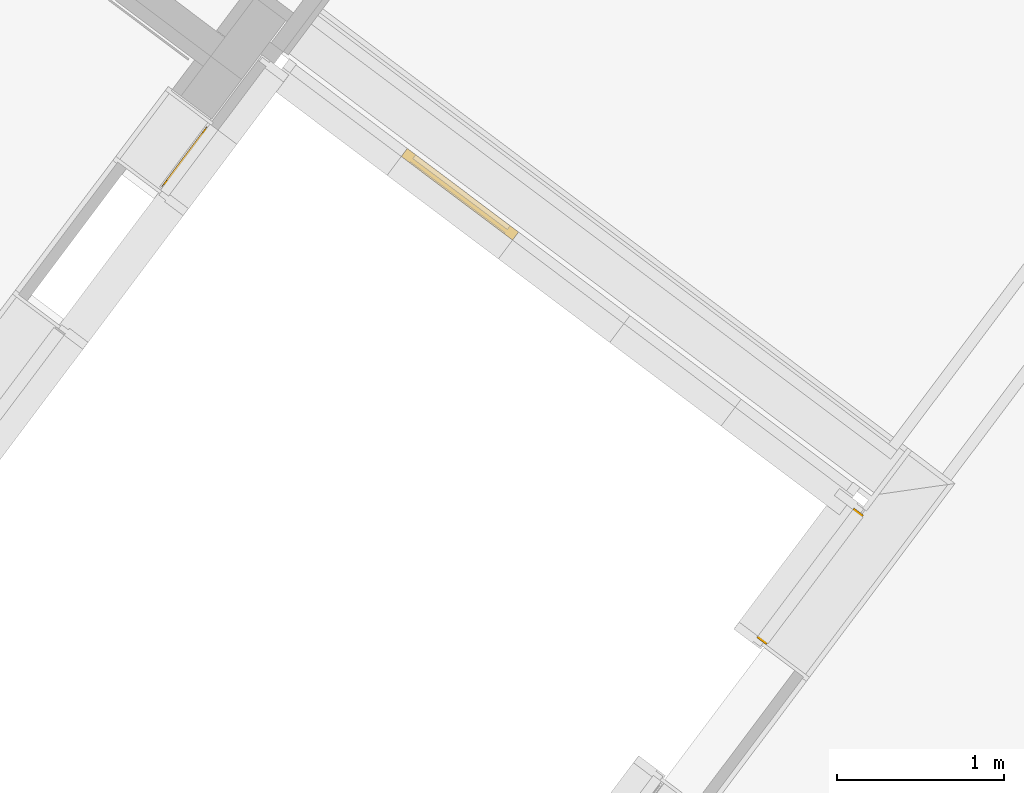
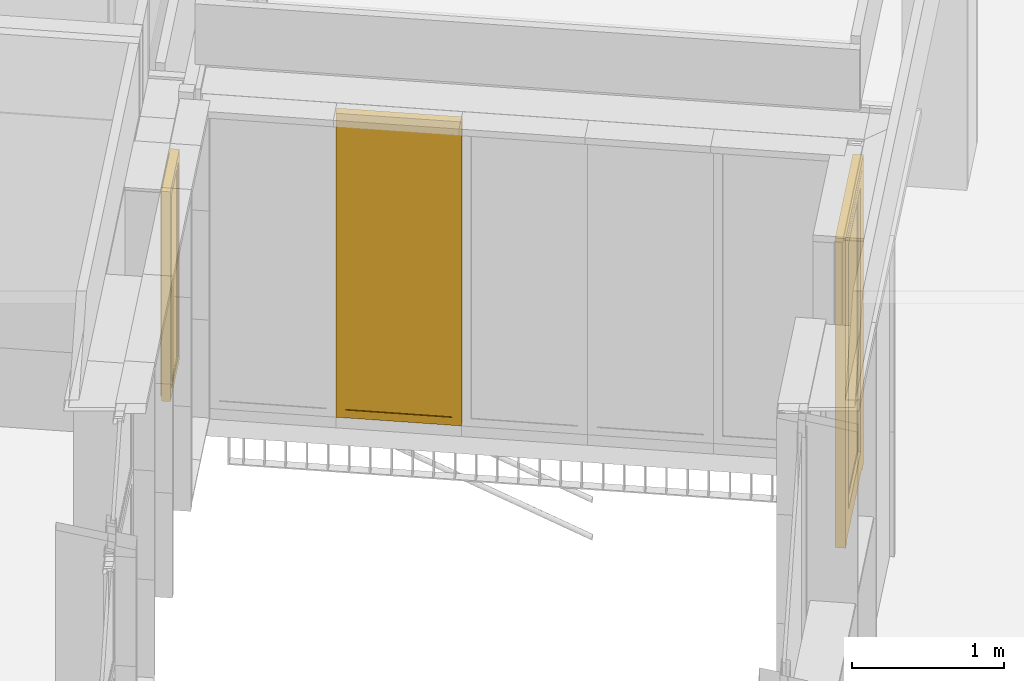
# One storey, part 197 of 243: 2 windows, 1 door, 3 elements without a shape of their own.
"""IFC2X3 building model written with IfcOpenShell, lengths in metres."""

from ifc_helpers import new_model, entity, si_unit, converted_unit, derived_unit, direction, frame, origin, place, context, subcontext, project, spatial, faceted_brep, source, transform, mapped, material, material_list, type_object, type_shapes, element, aggregate, save


model = new_model("IFC2X3")

# Units and contexts
model_context = context("Model", 3, precision=1e-05, world=origin(), true_north=direction((6.123031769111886e-17, 1.0)))
body_context = subcontext(model_context, "Body", "Model", "MODEL_VIEW")
ifc_project = project(units=[si_unit("LENGTHUNIT", "METRE"), si_unit("AREAUNIT", "SQUARE_METRE"), si_unit("VOLUMEUNIT", "CUBIC_METRE"), converted_unit("PLANEANGLEUNIT", "DEGREE", entity("IfcRatioMeasure", 0.017453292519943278), si_unit("PLANEANGLEUNIT", "RADIAN"), dimensions=[0, 0, 0, 0, 0, 0, 0]), si_unit("MASSUNIT", "GRAM", prefix="KILO"), derived_unit("MASSDENSITYUNIT", [(si_unit("MASSUNIT", "GRAM", prefix="KILO"), 1), (si_unit("LENGTHUNIT", "METRE"), -3)]), derived_unit("IONCONCENTRATIONUNIT", [(si_unit("MASSUNIT", "GRAM", prefix="KILO"), 1), (si_unit("LENGTHUNIT", "METRE"), -3)]), derived_unit("MOMENTOFINERTIAUNIT", [(si_unit("LENGTHUNIT", "METRE"), 4)]), si_unit("TIMEUNIT", "SECOND"), si_unit("FREQUENCYUNIT", "HERTZ"), si_unit("THERMODYNAMICTEMPERATUREUNIT", "DEGREE_CELSIUS"), derived_unit("THERMALTRANSMITTANCEUNIT", [(si_unit("MASSUNIT", "GRAM", prefix="KILO"), 1), (si_unit("THERMODYNAMICTEMPERATUREUNIT", "KELVIN"), -1), (si_unit("TIMEUNIT", "SECOND"), -3)]), derived_unit("THERMALCONDUCTANCEUNIT", [(si_unit("MASSUNIT", "GRAM", prefix="KILO"), 1), (si_unit("THERMODYNAMICTEMPERATUREUNIT", "KELVIN"), -1), (si_unit("TIMEUNIT", "SECOND"), -3), (si_unit("LENGTHUNIT", "METRE"), 1)]), derived_unit("VOLUMETRICFLOWRATEUNIT", [(si_unit("LENGTHUNIT", "METRE"), 3), (si_unit("TIMEUNIT", "SECOND"), -1)]), derived_unit("MASSFLOWRATEUNIT", [(si_unit("MASSUNIT", "GRAM", prefix="KILO"), 1), (si_unit("TIMEUNIT", "SECOND"), -1)]), derived_unit("ROTATIONALFREQUENCYUNIT", [(si_unit("TIMEUNIT", "SECOND"), -1)]), si_unit("ELECTRICCURRENTUNIT", "AMPERE"), si_unit("ELECTRICVOLTAGEUNIT", "VOLT"), si_unit("POWERUNIT", "WATT"), si_unit("FORCEUNIT", "NEWTON", prefix="KILO"), si_unit("ILLUMINANCEUNIT", "LUX"), si_unit("LUMINOUSFLUXUNIT", "LUMEN"), si_unit("LUMINOUSINTENSITYUNIT", "CANDELA"), derived_unit("USERDEFINED", [(si_unit("MASSUNIT", "GRAM", prefix="KILO"), -1), (si_unit("LENGTHUNIT", "METRE"), -2), (si_unit("TIMEUNIT", "SECOND"), 3), (si_unit("LUMINOUSFLUXUNIT", "LUMEN"), 1)]), derived_unit("USERDEFINED", [(si_unit("MASSUNIT", "GRAM", prefix="KILO"), 1), (si_unit("TIMEUNIT", "SECOND"), -3), (si_unit("LENGTHUNIT", "METRE"), 3), (si_unit("ELECTRICCURRENTUNIT", "AMPERE"), -2)]), derived_unit("SOUNDPOWERUNIT", [(si_unit("MASSUNIT", "GRAM", prefix="KILO"), 1), (si_unit("TIMEUNIT", "SECOND"), -3), (si_unit("LENGTHUNIT", "METRE"), 2)]), derived_unit("SOUNDPRESSUREUNIT", [(si_unit("MASSUNIT", "GRAM", prefix="KILO"), 1), (si_unit("LENGTHUNIT", "METRE"), -1), (si_unit("TIMEUNIT", "SECOND"), -2)]), derived_unit("LINEARVELOCITYUNIT", [(si_unit("LENGTHUNIT", "METRE"), 1), (si_unit("TIMEUNIT", "SECOND"), -1)]), si_unit("PRESSUREUNIT", "PASCAL"), derived_unit("USERDEFINED", [(si_unit("MASSUNIT", "GRAM", prefix="KILO"), 1), (si_unit("LENGTHUNIT", "METRE"), -2), (si_unit("TIMEUNIT", "SECOND"), -2)]), derived_unit("LINEARFORCEUNIT", [(si_unit("MASSUNIT", "GRAM", prefix="KILO"), 1), (si_unit("TIMEUNIT", "SECOND"), -2)]), derived_unit("PLANARFORCEUNIT", [(si_unit("MASSUNIT", "GRAM", prefix="KILO"), 1), (si_unit("LENGTHUNIT", "METRE"), -1), (si_unit("TIMEUNIT", "SECOND"), -2)]), derived_unit("SPECIFICHEATCAPACITYUNIT", [(si_unit("THERMODYNAMICTEMPERATUREUNIT", "KELVIN"), -1), (si_unit("LENGTHUNIT", "METRE"), 2), (si_unit("TIMEUNIT", "SECOND"), -2)]), derived_unit("HEATINGVALUEUNIT", [(si_unit("LENGTHUNIT", "METRE"), 2), (si_unit("TIMEUNIT", "SECOND"), -2)]), derived_unit("VAPORPERMEABILITYUNIT", [(si_unit("LENGTHUNIT", "METRE"), -1), (si_unit("TIMEUNIT", "SECOND"), 1)]), derived_unit("DYNAMICVISCOSITYUNIT", [(si_unit("MASSUNIT", "GRAM", prefix="KILO"), 1), (si_unit("TIMEUNIT", "SECOND"), -1), (si_unit("LENGTHUNIT", "METRE"), -1)]), derived_unit("THERMALEXPANSIONCOEFFICIENTUNIT", [(si_unit("THERMODYNAMICTEMPERATUREUNIT", "KELVIN"), -1)]), derived_unit("MODULUSOFELASTICITYUNIT", [(si_unit("MASSUNIT", "GRAM", prefix="KILO"), 1), (si_unit("LENGTHUNIT", "METRE"), -1), (si_unit("TIMEUNIT", "SECOND"), -2)]), derived_unit("ISOTHERMALMOISTURECAPACITYUNIT", [(si_unit("LENGTHUNIT", "METRE"), 3), (si_unit("MASSUNIT", "GRAM", prefix="KILO"), -1)]), derived_unit("MOISTUREDIFFUSIVITYUNIT", [(si_unit("TIMEUNIT", "SECOND"), -1), (si_unit("LENGTHUNIT", "METRE"), 2)])], contexts=[model_context])

# Site, building, storey
site_placement = place(None, frame((0.0, 0.0, 235.0), z_axis=(0.0, 0.0, 1.0), x_axis=(-0.7996477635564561, 0.6004693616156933, 0.0)))
site = spatial("IfcSite", under=ifc_project, at=site_placement, Name="Default", CompositionType="ELEMENT")
building_placement = place(site_placement, origin())
building = spatial("IfcBuilding", under=site, at=building_placement, CompositionType="ELEMENT")
storey_placement = place(building_placement, origin())
storey = spatial("IfcBuildingStorey", under=building, at=storey_placement, Name="P0- Escola", CompositionType="ELEMENT", Elevation=0.0)

# Curtain wall, window
curtain_wall_type_1 = type_object("IfcCurtainWallType", Name="Muro cortina:MC- EXT- MC2", PredefinedType="NOTDEFINED")
curtain_wall_1_placement = place(storey_placement, origin())
curtain_wall_1 = element("IfcCurtainWall", 1, at=curtain_wall_1_placement, inside=storey, type_object=curtain_wall_type_1, Name="Muro cortina:MC- EXT- MC2", ObjectType="Muro cortina:MC- EXT- MC2")
ifc_material_1 = material(Name="_Vidre")
ifc_material_2 = material(Name="_Alumini- T1- Perfil")
ifc_material_list_1 = material_list([ifc_material_1, ifc_material_2])
window_style_1 = type_object("IfcWindowStyle", Name="MC- Alu- Conjunt finestra basculant- 68x68 cm:MC- Alu- Conjunt finestra basculant- 68x68 cm", ConstructionType="NOTDEFINED", OperationType="NOTDEFINED", ParameterTakesPrecedence=False, Sizeable=False, material=ifc_material_list_1)
shared_shape_1 = source(origin(), body_context, "Body", "Brep", [
    faceted_brep([(0.194410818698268, -0.03559830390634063, 0.051999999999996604), (-0.19441081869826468, -0.03559830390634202, 0.051999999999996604), (-0.1944108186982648, -0.011598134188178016, 0.051999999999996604), (0.19441081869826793, -0.011598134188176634, 0.051999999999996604), (0.194410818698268, -0.03559830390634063, 1.631552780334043), (0.19441081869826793, -0.011598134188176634, 1.631552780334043), (-0.19441081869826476, -0.011598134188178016, 1.631552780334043), (-0.19441081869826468, -0.03559830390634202, 1.631552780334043)], [[[0, 1, 2, 3]], [[4, 0, 3, 5]], [[5, 3, 2, 6]], [[6, 2, 1, 7]], [[7, 1, 0, 4]], [[4, 5, 6, 7]]]),
    faceted_brep([(-0.1787099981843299, -0.009998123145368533, 1.6158519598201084), (-0.17870999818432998, -0.009998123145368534, 0.06789804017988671), (-0.17870999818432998, -0.007998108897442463, 0.06789804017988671), (-0.17870999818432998, -0.007998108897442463, 1.6158519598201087), (-0.2076080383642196, -0.007998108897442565, 1.6447499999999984), (0.2076080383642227, -0.00799810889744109, 1.6447499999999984), (0.2076080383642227, -0.00799810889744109, 0.03899999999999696), (-0.2076080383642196, -0.007998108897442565, 0.03899999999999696), (0.17870999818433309, -0.007998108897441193, 1.6158519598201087), (0.17870999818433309, -0.007998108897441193, 0.06789804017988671), (0.17870999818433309, -0.009998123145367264, 0.06789804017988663), (0.17870999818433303, -0.009998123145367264, 1.6158519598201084), (0.1944108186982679, -0.009998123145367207, 1.6315527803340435), (-0.1944108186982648, -0.00999812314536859, 1.6315527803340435), (-0.1944108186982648, -0.00999812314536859, 0.05219721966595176), (0.1944108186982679, -0.009998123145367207, 0.05219721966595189), (-0.1944108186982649, -0.04079986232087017, 1.6315527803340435), (-0.19441081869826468, -0.04079986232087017, 0.05219721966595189), (0.19441081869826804, -0.04079986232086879, 0.05219721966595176), (0.1944108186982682, -0.04079986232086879, 1.6315527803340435), (0.1787099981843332, -0.040799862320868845, 1.6158519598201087), (-0.17870999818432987, -0.040799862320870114, 1.6158519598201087), (-0.17870999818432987, -0.040799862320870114, 0.06789804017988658), (0.1787099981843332, -0.040799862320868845, 0.06789804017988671), (-0.17870999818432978, -0.0680000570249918, 1.6158519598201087), (-0.17870999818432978, -0.0680000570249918, 0.06789804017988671), (0.17870999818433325, -0.06800005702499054, 0.06789804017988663), (0.17870999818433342, -0.06800005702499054, 1.6158519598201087), (0.225112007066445, -0.06800005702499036, 1.6622539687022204), (-0.22511200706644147, -0.06800005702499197, 1.6622539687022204), (-0.22511200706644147, -0.06800005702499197, 0.021496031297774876), (0.225112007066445, -0.06800005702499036, 0.021496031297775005), (-0.22511200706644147, -0.06450003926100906, 1.6622539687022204), (-0.22511200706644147, -0.06450003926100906, 0.021496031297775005), (0.225112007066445, -0.06450003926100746, 0.021496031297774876), (0.225112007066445, -0.06450003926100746, 1.6622539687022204), (0.2076080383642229, -0.06450003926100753, 1.6447499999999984), (-0.2076080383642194, -0.064500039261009, 1.6447499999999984), (-0.2076080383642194, -0.064500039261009, 0.03899999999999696), (0.2076080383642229, -0.06450003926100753, 0.03899999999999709)], [[[0, 1, 2, 3]], [[4, 5, 6, 7], [8, 3, 2, 9]], [[1, 10, 9, 2]], [[0, 11, 10, 1], [12, 13, 14, 15]], [[16, 17, 14, 13]], [[17, 18, 15, 14]], [[16, 19, 18, 17], [20, 21, 22, 23]], [[24, 25, 22, 21]], [[25, 26, 23, 22]], [[24, 27, 26, 25], [28, 29, 30, 31]], [[32, 33, 30, 29]], [[33, 34, 31, 30]], [[32, 35, 34, 33], [36, 37, 38, 39]], [[4, 7, 38, 37]], [[7, 6, 39, 38]], [[10, 11, 8, 9]], [[18, 19, 12, 15]], [[26, 27, 20, 23]], [[34, 35, 28, 31]], [[6, 5, 36, 39]], [[11, 0, 3, 8]], [[19, 16, 13, 12]], [[27, 24, 21, 20]], [[35, 32, 29, 28]], [[5, 4, 37, 36]]], outer=[[True], [True, False], [True], [False, True], [True], [True], [True, False], [True], [True], [False, True], [True], [True], [True, False], [True], [True], [True], [True], [True], [True], [True], [True], [True], [True], [True], [True]]),
    faceted_brep([(0.18369229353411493, 0.0, 1.62094318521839), (0.18369229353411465, 0.0, 0.06280681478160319), (0.18369229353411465, -0.0040000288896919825, 0.06280681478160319), (0.18369229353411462, -0.0040000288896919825, 1.6209431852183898), (-0.1836922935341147, -0.0040000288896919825, 1.6209431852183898), (-0.18369229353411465, -0.0040000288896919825, 0.06280681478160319), (0.21909891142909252, -0.0040000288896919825, 1.6563498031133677), (-0.21909891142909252, -0.0040000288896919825, 1.6563498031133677), (-0.21909891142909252, -0.0040000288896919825, 0.027400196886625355), (0.21909891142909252, -0.0040000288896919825, 0.027400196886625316), (-0.18369229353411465, 0.0, 0.06280681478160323), (-0.18369229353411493, 0.0, 1.62094318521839), (-0.24649910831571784, 0.0, 1.683749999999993), (0.24649910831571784, 0.0, 1.683749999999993), (0.24649910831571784, 0.0, 0.0), (-0.24649910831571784, 0.0, 0.0), (0.24649910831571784, -0.05999999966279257, 1.683749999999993), (0.24649910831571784, -0.05999999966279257, 0.0), (-0.24649910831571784, -0.05999999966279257, 0.0), (-0.24649910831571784, -0.05999999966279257, 1.683749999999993), (-0.2190989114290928, -0.05999999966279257, 1.6563498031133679), (0.2190989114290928, -0.05999999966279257, 1.6563498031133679), (0.2190989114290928, -0.05999999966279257, 0.02740019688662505), (-0.2190989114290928, -0.05999999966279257, 0.027400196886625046)], [[[0, 1, 2, 3]], [[4, 3, 2, 5], [6, 7, 8, 9]], [[1, 10, 5, 2]], [[0, 11, 10, 1], [12, 13, 14, 15]], [[16, 17, 14, 13]], [[17, 18, 15, 14]], [[16, 19, 18, 17], [20, 21, 22, 23]], [[6, 9, 22, 21]], [[9, 8, 23, 22]], [[10, 11, 4, 5]], [[18, 19, 12, 15]], [[8, 7, 20, 23]], [[11, 0, 3, 4]], [[19, 16, 13, 12]], [[7, 6, 21, 20]]], outer=[[True], [False, True], [True], [False, True], [True], [True], [True, False], [True], [True], [True], [True], [True], [True], [True], [True]]),
])
type_shapes(window_style_1, [shared_shape_1])
window_1_placement = place(curtain_wall_1_placement, frame((53.745147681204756, -35.67669086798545, 0.8200000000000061), z_axis=(0.0, 0.0, 1.0), x_axis=(0.0, 1.0, 0.0)))
window_1 = element("IfcWindow", 2, at=window_1_placement, type_object=window_style_1, material=ifc_material_list_1, Name="MC- Alu- Conjunt finestra basculant- 68x68 cm:MC- Alu- Conjunt finestra basculant- 68x68 cm", ObjectType="MC- Alu- Conjunt finestra basculant- 68x68 cm:MC- Alu- Conjunt finestra basculant- 68x68 cm", OverallHeight=1.683749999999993, OverallWidth=0.49299821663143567, context=body_context, shape_type="MappedRepresentation", body=[
    mapped(shared_shape_1, transform((0.0, 0.0, 0.0), scale=1.0)),
])
aggregate(curtain_wall_1, [window_1])

# Curtain wall, door
curtain_wall_type_2 = type_object("IfcCurtainWallType", Name="Muro cortina:MC- EXT- MC5", PredefinedType="NOTDEFINED")
curtain_wall_2_placement = place(storey_placement, origin())
curtain_wall_2 = element("IfcCurtainWall", 3, at=curtain_wall_2_placement, inside=storey, type_object=curtain_wall_type_2, Name="Muro cortina:MC- EXT- MC5", ObjectType="Muro cortina:MC- EXT- MC5")
ifc_material_list_2 = material_list([ifc_material_2, ifc_material_1])
door_style = type_object("IfcDoorStyle", Name="MC- Alu- Conjunt porta- 70x60 cm- +15cm:MC- Alu- Conjunt porta- 70x60 cm- +15cm", ConstructionType="NOTDEFINED", OperationType="SINGLE_SWING_RIGHT", ParameterTakesPrecedence=False, Sizeable=False, material=ifc_material_list_2)
shared_shape_2 = source(origin(), body_context, "Body", "Brep", [
    faceted_brep([(-0.4116740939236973, -0.06999999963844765, 0.024000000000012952), (-0.4116740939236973, -0.004300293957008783, 0.024000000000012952), (0.4116740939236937, -0.004300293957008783, 0.024000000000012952), (0.4116740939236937, -0.06999999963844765, 0.024000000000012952), (-0.4116740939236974, -0.004300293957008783, 2.410449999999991), (-0.4116740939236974, -0.06999999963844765, 2.410449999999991), (0.4116740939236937, -0.004300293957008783, 2.410449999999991), (0.4356740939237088, -0.004300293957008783, 0.0), (0.4356740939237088, -0.004300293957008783, 2.434450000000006), (-0.4356740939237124, -0.004300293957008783, 2.434450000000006), (-0.4356740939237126, -0.004300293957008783, 0.0), (0.4116740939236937, -0.06999999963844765, 2.410449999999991), (-0.33507409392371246, -0.06999999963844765, 2.333850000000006), (0.3350740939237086, -0.06999999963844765, 2.333850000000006), (0.3350740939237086, -0.06999999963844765, 0.20400000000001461), (-0.3350740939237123, -0.06999999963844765, 0.20400000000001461), (0.4356740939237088, -2.945720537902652e-07, 2.434450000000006), (0.4356740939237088, -2.945720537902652e-07, 0.0), (-0.4356740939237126, -2.945720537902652e-07, 0.0), (-0.43567409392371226, -2.945720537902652e-07, 2.434450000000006), (0.3350740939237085, -2.945720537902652e-07, 2.333850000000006), (-0.33507409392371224, -2.945720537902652e-07, 2.333850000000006), (-0.3350740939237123, -2.945720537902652e-07, 0.20400000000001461), (0.33507409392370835, -2.945720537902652e-07, 0.20400000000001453), (0.33507409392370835, -0.005500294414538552, 2.333850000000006), (0.3350740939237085, -0.005500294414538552, 0.20400000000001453), (-0.3350740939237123, -0.005500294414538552, 0.20400000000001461), (-0.33507409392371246, -0.005500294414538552, 2.333850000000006), (0.36007409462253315, -0.005500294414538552, 2.3588500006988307), (-0.360074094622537, -0.005500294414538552, 2.3588500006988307), (-0.360074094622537, -0.005500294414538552, 0.17899999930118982), (0.36007409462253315, -0.005500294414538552, 0.17899999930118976), (0.36007409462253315, -0.051000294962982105, 2.3588500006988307), (0.36007409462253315, -0.051000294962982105, 0.17899999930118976), (-0.360074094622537, -0.051000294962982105, 0.17899999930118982), (-0.36007409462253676, -0.051000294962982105, 2.3588500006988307), (0.3350740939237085, -0.051000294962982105, 2.333850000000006), (-0.33507409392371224, -0.051000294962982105, 2.333850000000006), (-0.3350740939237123, -0.051000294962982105, 0.20400000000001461), (0.33507409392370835, -0.051000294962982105, 0.20400000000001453)], [[[0, 1, 2, 3]], [[4, 1, 0, 5]], [[2, 1, 4, 6], [7, 8, 9, 10]], [[2, 6, 11, 3]], [[12, 13, 14, 15], [11, 5, 0, 3]], [[16, 8, 7, 17]], [[10, 18, 17, 7]], [[18, 19, 16, 17], [20, 21, 22, 23]], [[24, 20, 23, 25]], [[23, 22, 26, 25]], [[27, 24, 25, 26], [28, 29, 30, 31]], [[32, 28, 31, 33]], [[33, 31, 30, 34]], [[35, 32, 33, 34], [36, 37, 38, 39]], [[13, 36, 39, 14]], [[39, 38, 15, 14]], [[9, 19, 18, 10]], [[21, 27, 26, 22]], [[29, 35, 34, 30]], [[37, 12, 15, 38]], [[19, 9, 8, 16]], [[27, 21, 20, 24]], [[35, 29, 28, 32]], [[12, 37, 36, 13]], [[4, 5, 11, 6]]], outer=[[True], [True], [False, True], [True], [False, True], [True], [True], [True, False], [True], [True], [False, True], [True], [True], [True, False], [True], [True], [True], [True], [True], [True], [True], [True], [True], [True], [True]]),
    faceted_brep([(0.36007409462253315, -0.00910019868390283, 0.17899999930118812), (0.36007409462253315, -0.041100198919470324, 0.17899999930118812), (-0.360074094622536, -0.041100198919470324, 0.17899999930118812), (-0.360074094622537, -0.00910019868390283, 0.17899999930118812), (0.36007409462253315, -0.00910019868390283, 2.358850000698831), (0.36007409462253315, -0.041100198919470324, 2.358850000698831), (-0.360074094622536, -0.041100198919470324, 2.358850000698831), (-0.360074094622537, -0.00910019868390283, 2.358850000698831)], [[[0, 1, 2, 3]], [[4, 5, 1, 0]], [[5, 6, 2, 1]], [[6, 7, 3, 2]], [[7, 4, 0, 3]], [[4, 7, 6, 5]]]),
    faceted_brep([(0.4849740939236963, 0.0, 0.0), (0.4849740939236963, -0.06999999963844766, 0.0), (0.4176740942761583, -0.06999999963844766, 0.0), (0.4176740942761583, -0.061199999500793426, 0.0), (0.4331740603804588, -0.061199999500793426, 0.0), (0.4331740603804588, -0.010300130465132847, 0.0), (0.44367409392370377, -0.010300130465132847, 0.0), (0.44367409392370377, 0.0, 0.0), (0.48497409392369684, 0.0, 2.4837499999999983), (0.48497409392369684, -0.06999999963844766, 2.4837499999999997), (-0.48497409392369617, -0.06999999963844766, 2.4837499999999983), (-0.48497409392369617, -0.06999999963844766, 0.0), (-0.41767409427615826, -0.06999999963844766, 0.0), (-0.41767409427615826, -0.06999999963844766, 2.4164500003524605), (0.4176740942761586, -0.06999999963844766, 2.416450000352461), (0.4176740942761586, -0.061199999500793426, 2.416450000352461), (-0.4176740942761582, -0.061199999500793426, 2.4164500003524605), (-0.4176740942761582, -0.061199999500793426, 0.0), (-0.43317406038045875, -0.061199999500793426, 0.0), (-0.43317406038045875, -0.061199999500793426, 2.4319499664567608), (0.4331740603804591, -0.061199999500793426, 2.431949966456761), (0.4331740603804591, -0.010300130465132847, 2.431949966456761), (-0.43317406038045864, -0.010300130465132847, 2.4319499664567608), (-0.43317406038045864, -0.010300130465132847, 0.0), (-0.443674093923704, -0.010300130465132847, 0.0), (-0.443674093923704, -0.010300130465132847, 2.4424500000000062), (0.4436740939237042, -0.010300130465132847, 2.4424500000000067), (0.4436740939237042, 0.0, 2.4424500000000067), (-0.44367409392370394, 0.0, 2.4424500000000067), (-0.44367409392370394, 0.0, 0.0), (-0.4849740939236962, 0.0, 0.0), (-0.4849740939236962, 0.0, 2.4837499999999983)], [[[0, 1, 2, 3, 4, 5, 6, 7]], [[1, 0, 8, 9]], [[2, 1, 9, 10, 11, 12, 13, 14]], [[3, 2, 14, 15]], [[4, 3, 15, 16, 17, 18, 19, 20]], [[5, 4, 20, 21]], [[6, 5, 21, 22, 23, 24, 25, 26]], [[7, 6, 26, 27]], [[0, 7, 27, 28, 29, 30, 31, 8]], [[30, 29, 24, 23, 18, 17, 12, 11]], [[28, 25, 24, 29]], [[22, 19, 18, 23]], [[16, 13, 12, 17]], [[10, 31, 30, 11]], [[9, 8, 31, 10]], [[15, 14, 13, 16]], [[21, 20, 19, 22]], [[27, 26, 25, 28]]]),
])
type_shapes(door_style, [shared_shape_2])
door_placement = place(curtain_wall_2_placement, frame((49.345147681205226, -35.915165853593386, 0.020000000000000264), z_axis=(0.0, 0.0, 1.0), x_axis=(0.0, -1.0, 0.0)))
door = element("IfcDoor", 4, at=door_placement, type_object=door_style, material=ifc_material_list_2, Name="MC- Alu- Conjunt porta- 70x60 cm- +15cm:MC- Alu- Conjunt porta- 70x60 cm- +15cm", ObjectType="MC- Alu- Conjunt porta- 70x60 cm- +15cm:MC- Alu- Conjunt porta- 70x60 cm- +15cm", OverallHeight=2.483750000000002, OverallWidth=0.9699481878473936, context=body_context, shape_type="MappedRepresentation", body=[
    mapped(shared_shape_2, transform((0.0, 0.0, 0.0), scale=1.0)),
])
aggregate(curtain_wall_2, [door])

# Curtain wall, window
curtain_wall_type_3 = type_object("IfcCurtainWallType", PredefinedType="NOTDEFINED")
curtain_wall_3_placement = place(storey_placement, origin())
curtain_wall_3 = element("IfcCurtainWall", 5, at=curtain_wall_3_placement, inside=storey, type_object=curtain_wall_type_3)
window_style_2 = type_object("IfcWindowStyle", Name="MC- Alu- Conjunt vidre fix- 62x60 cm:MC- Alu- Conjunt vidre fix- 62x60 cm", ConstructionType="NOTDEFINED", OperationType="NOTDEFINED", ParameterTakesPrecedence=False, Sizeable=False, material=ifc_material_list_1)
shared_shape_3 = source(origin(), body_context, "Body", "Brep", [
    faceted_brep([(-0.367593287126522, -0.007600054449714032, 0.048806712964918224), (0.36759328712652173, -0.007600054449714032, 0.048806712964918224), (0.36759328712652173, -0.03160022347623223, 0.048806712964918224), (-0.367593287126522, -0.03160022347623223, 0.048806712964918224), (-0.367593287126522, -0.007600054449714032, 2.389749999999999), (0.36759328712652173, -0.007600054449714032, 2.389749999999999), (0.36759328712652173, -0.03160022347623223, 2.389749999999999), (-0.367593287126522, -0.03160022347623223, 2.389749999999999)], [[[0, 1, 2, 3]], [[4, 5, 1, 0]], [[5, 6, 2, 1]], [[6, 7, 3, 2]], [[7, 4, 0, 3]], [[4, 7, 6, 5]]]),
    faceted_brep([(-0.4164000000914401, -0.05999999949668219, 2.438749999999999), (-0.4164000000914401, 0.0, 2.438749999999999), (-0.4164000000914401, 0.0, 0.0), (-0.41640000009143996, -0.05999999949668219, 0.0), (-0.3535931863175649, 0.0, 2.3759431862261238), (-0.3535931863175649, 0.0, 0.06280681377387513), (0.353593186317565, 0.0, 0.06280681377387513), (0.35359318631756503, 0.0, 2.3759431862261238), (0.4164000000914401, 0.0, 2.438749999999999), (0.4164000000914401, 0.0, 0.0), (0.41640000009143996, -0.05999999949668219, 0.0), (0.4164000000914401, -0.05999999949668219, 2.438749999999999), (0.35359603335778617, -0.05999999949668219, 2.3759460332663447), (0.3535960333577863, -0.05999999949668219, 0.06280396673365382), (-0.3535960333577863, -0.05999999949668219, 0.06280396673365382), (-0.3535960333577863, -0.05999999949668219, 2.375946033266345), (-0.3535960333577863, -0.03160022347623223, 2.375946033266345), (-0.3535960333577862, -0.03160022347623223, 0.06280396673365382), (0.3535960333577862, -0.03160022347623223, 0.0628039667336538), (0.3535960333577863, -0.03160022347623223, 2.375946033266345), (0.36759328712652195, -0.03160022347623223, 2.3899432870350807), (0.36759328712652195, -0.03160022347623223, 0.048806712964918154), (-0.36759328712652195, -0.03160022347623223, 0.04880671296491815), (-0.36759328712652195, -0.03160022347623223, 2.3899432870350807), (-0.36759328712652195, -0.007600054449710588, 2.3899432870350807), (-0.36759328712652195, -0.007600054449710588, 0.04880671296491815), (0.36759328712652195, -0.007600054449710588, 0.048806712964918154), (0.36759328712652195, -0.007600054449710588, 2.3899432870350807), (0.353593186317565, -0.007600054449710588, 2.3759431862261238), (0.353593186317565, -0.007600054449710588, 0.06280681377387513), (-0.353593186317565, -0.007600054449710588, 0.06280681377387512), (-0.35359318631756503, -0.007600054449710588, 2.3759431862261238)], [[[0, 1, 2, 3]], [[4, 5, 6, 7], [8, 9, 2, 1]], [[3, 2, 9, 10]], [[0, 3, 10, 11], [12, 13, 14, 15]], [[16, 15, 14, 17]], [[17, 14, 13, 18]], [[16, 17, 18, 19], [20, 21, 22, 23]], [[24, 23, 22, 25]], [[25, 22, 21, 26]], [[24, 25, 26, 27], [28, 29, 30, 31]], [[4, 31, 30, 5]], [[5, 30, 29, 6]], [[10, 9, 8, 11]], [[18, 13, 12, 19]], [[26, 21, 20, 27]], [[6, 29, 28, 7]], [[11, 8, 1, 0]], [[19, 12, 15, 16]], [[27, 20, 23, 24]], [[7, 28, 31, 4]]], outer=[[True], [False, True], [True], [True, False], [True], [True], [False, True], [True], [True], [True, False], [True], [True], [True], [True], [True], [True], [True], [True], [True], [True]]),
])
type_shapes(window_style_2, [shared_shape_3])
window_2_placement = place(curtain_wall_3_placement, frame((52.357947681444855, -36.45518994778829, 0.06499999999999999)))
window_2 = element("IfcWindow", 6, at=window_2_placement, type_object=window_style_2, material=ifc_material_list_1, Name="MC- Alu- Conjunt vidre fix- 62x60 cm:MC- Alu- Conjunt vidre fix- 62x60 cm", ObjectType="MC- Alu- Conjunt vidre fix- 62x60 cm:MC- Alu- Conjunt vidre fix- 62x60 cm", OverallHeight=2.438749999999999, OverallWidth=0.8328000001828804, context=body_context, shape_type="MappedRepresentation", body=[
    mapped(shared_shape_3, transform((0.0, 0.0, 0.0), scale=1.0)),
])
aggregate(curtain_wall_3, [window_2])

save(model, "model.ifc")
